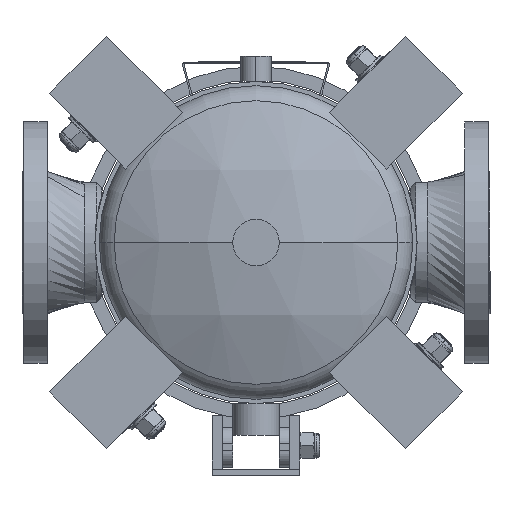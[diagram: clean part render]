
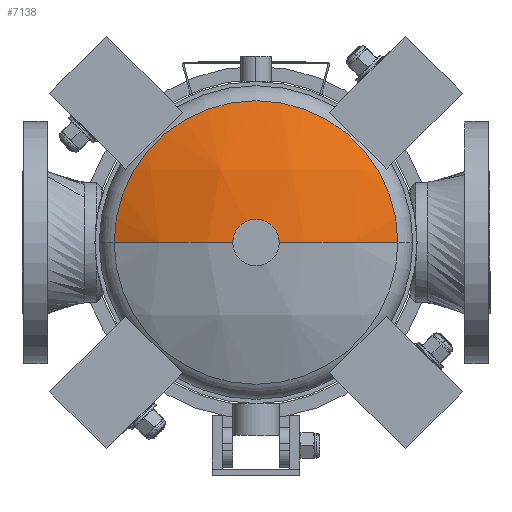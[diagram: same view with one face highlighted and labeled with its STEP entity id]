
A CAD part, front view. The second image highlights one B-rep face of the part: STEP entity #7138.
In plain terms, the highlighted spherical face has radius 304.8 mm.
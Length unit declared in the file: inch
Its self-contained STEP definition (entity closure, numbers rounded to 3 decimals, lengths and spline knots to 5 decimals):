
#639 = AXIS2_PLACEMENT_3D ( 'NONE', #9873, #3386, #16241 ) ;
#1433 = DIRECTION ( 'NONE',  ( -1., 0., 0. ) ) ;
#1943 = ORIENTED_EDGE ( 'NONE', *, *, #23607, .F. ) ;
#2662 = EDGE_LOOP ( 'NONE', ( #4226, #23892, #1943 ) ) ;
#2672 = DIRECTION ( 'NONE',  ( 0., 0., 1. ) ) ;
#3386 = DIRECTION ( 'NONE',  ( 0., 0., -1. ) ) ;
#3940 = CARTESIAN_POINT ( 'NONE',  ( 0., -14.62386, 0. ) ) ;
#4034 = CARTESIAN_POINT ( 'NONE',  ( 0., -26.62386, 0. ) ) ;
#4226 = ORIENTED_EDGE ( 'NONE', *, *, #6852, .F. ) ;
#4777 = FACE_OUTER_BOUND ( 'NONE', #2662, .T. ) ;
#5326 = CARTESIAN_POINT ( 'NONE',  ( 0., -14.62386, 0. ) ) ;
#5809 = CARTESIAN_POINT ( 'NONE',  ( 0., -25.39783, 0. ) ) ;
#6852 = EDGE_CURVE ( 'NONE', #8018, #22712, #21395, .T. ) ;
#7138 = ADVANCED_FACE ( 'NONE', ( #4777 ), #22060, .T. ) ;
#7832 = CIRCLE ( 'NONE', #18746, 5.28409 ) ;
#8018 = VERTEX_POINT ( 'NONE', #4034 ) ;
#9149 = VERTEX_POINT ( 'NONE', #11537 ) ;
#9577 = DIRECTION ( 'NONE',  ( -1., 0., 0. ) ) ;
#9873 = CARTESIAN_POINT ( 'NONE',  ( 0., -14.62386, 0. ) ) ;
#11537 = CARTESIAN_POINT ( 'NONE',  ( 5.28409, -25.39783, 0. ) ) ;
#12687 = CIRCLE ( 'NONE', #18558, 12. ) ;
#14180 = AXIS2_PLACEMENT_3D ( 'NONE', #5326, #2672, #9577 ) ;
#14833 = DIRECTION ( 'NONE',  ( 0., 0., 1. ) ) ;
#16241 = DIRECTION ( 'NONE',  ( -1., 0., 0. ) ) ;
#18557 = DIRECTION ( 'NONE',  ( 0., 1., 0. ) ) ;
#18558 = AXIS2_PLACEMENT_3D ( 'NONE', #3940, #14833, #27452 ) ;
#18746 = AXIS2_PLACEMENT_3D ( 'NONE', #5809, #18557, #1433 ) ;
#21235 = CARTESIAN_POINT ( 'NONE',  ( -5.28409, -25.39783, 0. ) ) ;
#21395 = CIRCLE ( 'NONE', #639, 12. ) ;
#22060 = SPHERICAL_SURFACE ( 'NONE', #14180, 12. ) ;
#22712 = VERTEX_POINT ( 'NONE', #21235 ) ;
#23607 = EDGE_CURVE ( 'NONE', #22712, #9149, #7832, .T. ) ;
#23892 = ORIENTED_EDGE ( 'NONE', *, *, #26057, .T. ) ;
#26057 = EDGE_CURVE ( 'NONE', #8018, #9149, #12687, .T. ) ;
#27452 = DIRECTION ( 'NONE',  ( 1., 0., 0. ) ) ;
